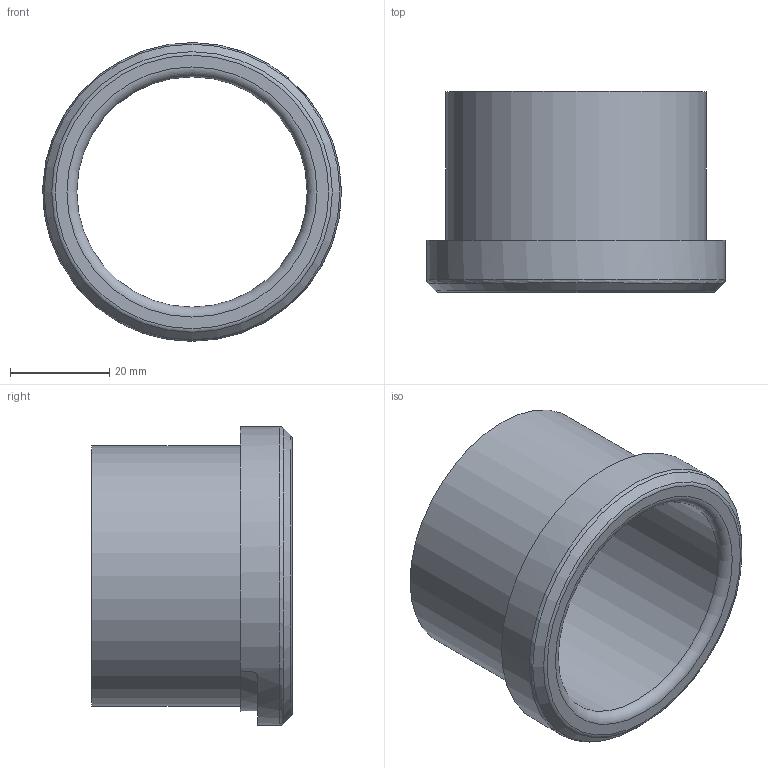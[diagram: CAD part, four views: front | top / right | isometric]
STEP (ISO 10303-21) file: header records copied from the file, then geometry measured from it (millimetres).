
FILE_DESCRIPTION (( 'STEP AP214' ), '1' );
FILE_NAME ('MONO_038-p204_01.STEP', '2025-09-30T06:28:52', ( '' ), ( '' ), 'SwSTEP 2.0', 'SolidWorks 2024', '' );
FILE_SCHEMA (( 'AUTOMOTIVE_DESIGN' ));
Length unit declared in the file: millimetre
Products named in the file (1): MONO_038-p204_01
Bounding box: 60.29 x 40.5 x 60.3 mm (x, y, z)
Volume: 24978.6 mm3; surface area: 14661.9 mm2
Topology: 1 solids, 1 shells, 19 faces, 44 edges, 28 vertices
Faces by surface type: cylinder 8, plane 6, torus 4, cone 1
Full cylindrical faces by diameter (mm): 46.5 x1, 52.5 x1, 60.3 x1
Entity records: 549 total; most frequent: CARTESIAN_POINT 136, DIRECTION 80, ORIENTED_EDGE 68, AXIS2_PLACEMENT_3D 34, EDGE_CURVE 34, EDGE_LOOP 30, FACE_OUTER_BOUND 26, VERTEX_POINT 26
